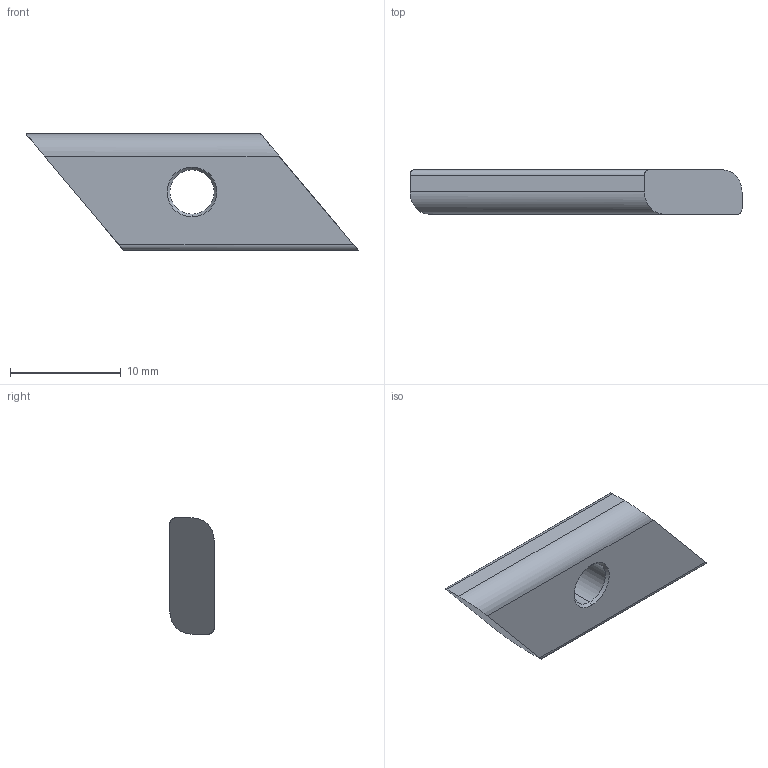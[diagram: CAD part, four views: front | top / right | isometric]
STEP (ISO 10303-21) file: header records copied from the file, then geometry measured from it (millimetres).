
FILE_DESCRIPTION (( 'STEP AP203' ), '1' );
FILE_NAME ('5194.STEP', '2017-04-14T02:11:36', ( '' ), ( '' ), 'SwSTEP 2.0', 'SolidWorks 2014', '' );
FILE_SCHEMA (( 'CONFIG_CONTROL_DESIGN' ));
Length unit declared in the file: millimetre
Products named in the file (1): 5194
Bounding box: 30 x 4 x 10.5 mm (x, y, z)
Volume: 800.2 mm3; surface area: 695.5 mm2
Topology: 1 solids, 1 shells, 16 faces, 38 edges, 24 vertices
Faces by surface type: cylinder 6, plane 6, cone 4
Entity records: 539 total; most frequent: CARTESIAN_POINT 103, ORIENTED_EDGE 76, DIRECTION 72, EDGE_CURVE 38, AXIS2_PLACEMENT_3D 25, VERTEX_POINT 24, VECTOR 22, LINE 22
